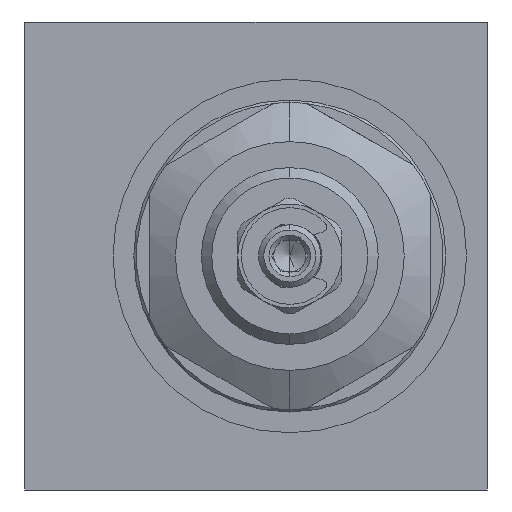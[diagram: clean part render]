
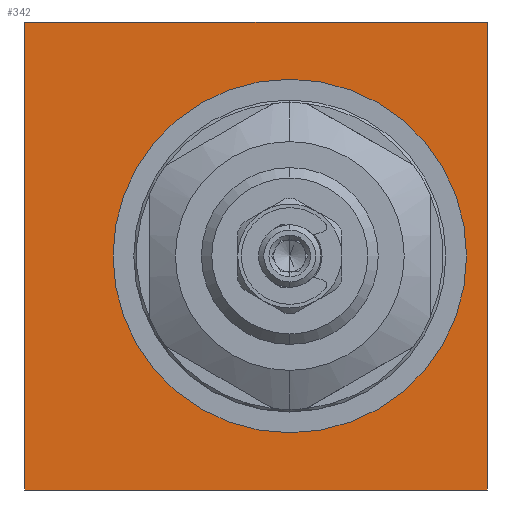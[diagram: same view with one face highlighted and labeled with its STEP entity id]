
A CAD part, left-side view. The second image highlights one B-rep face of the part: STEP entity #342.
In plain terms, the highlighted planar face has unit normal (-1, 0, 0).
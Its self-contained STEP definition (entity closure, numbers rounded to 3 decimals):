
#342 = ADVANCED_FACE ( 'NONE', ( #3862, #3610 ), #1876, .T. ) ;
#634 = AXIS2_PLACEMENT_3D ( 'NONE', #1545, #1506, #1490 ) ;
#705 = VERTEX_POINT ( 'NONE', #6351 ) ;
#1012 = CARTESIAN_POINT ( 'NONE',  ( 0., -3.25, 17. ) ) ;
#1490 = DIRECTION ( 'NONE',  ( 0., 0., 1. ) ) ;
#1506 = DIRECTION ( 'NONE',  ( -1., 0., 0. ) ) ;
#1545 = CARTESIAN_POINT ( 'NONE',  ( 0., 22.25, -22.5 ) ) ;
#1718 = ORIENTED_EDGE ( 'NONE', *, *, #6607, .F. ) ;
#1876 = PLANE ( 'NONE',  #634 ) ;
#2307 = EDGE_CURVE ( 'NONE', #14171, #7270, #7849, .T. ) ;
#2409 = EDGE_LOOP ( 'NONE', ( #8605, #1718, #11900, #9018 ) ) ;
#2665 = ORIENTED_EDGE ( 'NONE', *, *, #6610, .F. ) ;
#3500 = CARTESIAN_POINT ( 'NONE',  ( 0., -3.25, 0. ) ) ;
#3574 = DIRECTION ( 'NONE',  ( -1., 0., 0. ) ) ;
#3610 = FACE_BOUND ( 'NONE', #4559, .T. ) ;
#3789 = DIRECTION ( 'NONE',  ( 0., 0., 1. ) ) ;
#3862 = FACE_OUTER_BOUND ( 'NONE', #2409, .T. ) ;
#4055 = VERTEX_POINT ( 'NONE', #5767 ) ;
#4559 = EDGE_LOOP ( 'NONE', ( #2665, #6424 ) ) ;
#4792 = AXIS2_PLACEMENT_3D ( 'NONE', #9223, #9219, #9200 ) ;
#4849 = VERTEX_POINT ( 'NONE', #14594 ) ;
#5158 = CARTESIAN_POINT ( 'NONE',  ( 0., 22.25, 22.5 ) ) ;
#5767 = CARTESIAN_POINT ( 'NONE',  ( 0., 22.25, -22.5 ) ) ;
#6351 = CARTESIAN_POINT ( 'NONE',  ( 0., -22.25, 22.5 ) ) ;
#6424 = ORIENTED_EDGE ( 'NONE', *, *, #2307, .F. ) ;
#6476 = EDGE_CURVE ( 'NONE', #7946, #705, #8742, .T. ) ;
#6586 = EDGE_CURVE ( 'NONE', #4849, #4055, #14573, .T. ) ;
#6607 = EDGE_CURVE ( 'NONE', #705, #4849, #14562, .T. ) ;
#6609 = EDGE_CURVE ( 'NONE', #4055, #7946, #14670, .T. ) ;
#6610 = EDGE_CURVE ( 'NONE', #7270, #14171, #14631, .T. ) ;
#7270 = VERTEX_POINT ( 'NONE', #1012 ) ;
#7849 = CIRCLE ( 'NONE', #11057, 17. ) ;
#7946 = VERTEX_POINT ( 'NONE', #5158 ) ;
#8605 = ORIENTED_EDGE ( 'NONE', *, *, #6586, .F. ) ;
#8742 = LINE ( 'NONE', #11519, #9335 ) ;
#9018 = ORIENTED_EDGE ( 'NONE', *, *, #6609, .F. ) ;
#9200 = DIRECTION ( 'NONE',  ( 0., 0., 1. ) ) ;
#9219 = DIRECTION ( 'NONE',  ( -1., 0., 0. ) ) ;
#9223 = CARTESIAN_POINT ( 'NONE',  ( 0., -3.25, 0. ) ) ;
#9292 = DIRECTION ( 'NONE',  ( 0., 0., 1. ) ) ;
#9323 = CARTESIAN_POINT ( 'NONE',  ( 0., 22.25, 22.5 ) ) ;
#9325 = DIRECTION ( 'NONE',  ( 0., 0., -1. ) ) ;
#9335 = VECTOR ( 'NONE', #11295, 1000. ) ;
#9382 = CARTESIAN_POINT ( 'NONE',  ( 0., -22.25, 22.5 ) ) ;
#9467 = DIRECTION ( 'NONE',  ( 0., 1., 0. ) ) ;
#9528 = CARTESIAN_POINT ( 'NONE',  ( 0., -22.25, -22.5 ) ) ;
#10989 = CARTESIAN_POINT ( 'NONE',  ( 0., -3.25, -17. ) ) ;
#11057 = AXIS2_PLACEMENT_3D ( 'NONE', #3500, #3574, #3789 ) ;
#11295 = DIRECTION ( 'NONE',  ( 0., -1., 0. ) ) ;
#11519 = CARTESIAN_POINT ( 'NONE',  ( 0., -22.25, 22.5 ) ) ;
#11900 = ORIENTED_EDGE ( 'NONE', *, *, #6476, .F. ) ;
#14171 = VERTEX_POINT ( 'NONE', #10989 ) ;
#14544 = VECTOR ( 'NONE', #9325, 1000. ) ;
#14562 = LINE ( 'NONE', #9382, #14544 ) ;
#14573 = LINE ( 'NONE', #9528, #14643 ) ;
#14594 = CARTESIAN_POINT ( 'NONE',  ( 0., -22.25, -22.5 ) ) ;
#14631 = CIRCLE ( 'NONE', #4792, 17. ) ;
#14643 = VECTOR ( 'NONE', #9467, 1000. ) ;
#14658 = VECTOR ( 'NONE', #9292, 1000. ) ;
#14670 = LINE ( 'NONE', #9323, #14658 ) ;
